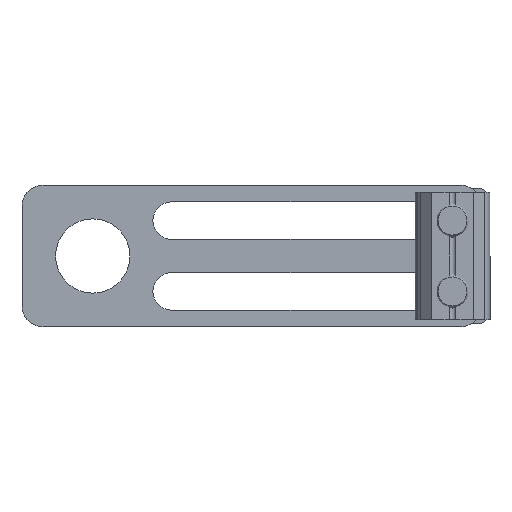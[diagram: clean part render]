
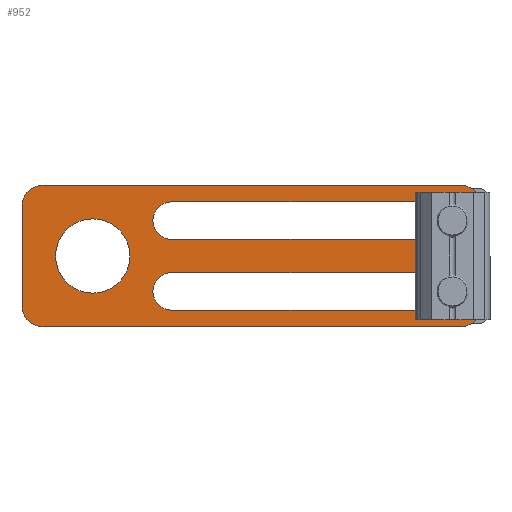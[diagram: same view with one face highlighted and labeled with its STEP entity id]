
A CAD part, left-side view. The second image highlights one B-rep face of the part: STEP entity #952.
In plain terms, the highlighted planar face has unit normal (-1, 0, 0).
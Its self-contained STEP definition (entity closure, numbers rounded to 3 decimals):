
#952=ADVANCED_FACE('',(#1835,#1836,#1837,#1838),#1839,.T.);
#1835=FACE_BOUND('',#2687,.T.);
#1836=FACE_OUTER_BOUND('',#2688,.T.);
#1837=FACE_BOUND('',#2689,.T.);
#1838=FACE_BOUND('',#2690,.T.);
#1839=PLANE('',#2691);
#2687=EDGE_LOOP('',(#5191,#5192,#5193,#5194));
#2688=EDGE_LOOP('',(#5195,#5196,#5197,#5198,#5199,#5200,#5201,#5202));
#2689=EDGE_LOOP('',(#5203));
#2690=EDGE_LOOP('',(#5204,#5205,#5206,#5207));
#2691=AXIS2_PLACEMENT_3D('',#5208,#5209,#5210);
#5191=ORIENTED_EDGE('',*,*,#6316,.F.);
#5192=ORIENTED_EDGE('',*,*,#6317,.F.);
#5193=ORIENTED_EDGE('',*,*,#6318,.F.);
#5194=ORIENTED_EDGE('',*,*,#6319,.F.);
#5195=ORIENTED_EDGE('',*,*,#6320,.T.);
#5196=ORIENTED_EDGE('',*,*,#6292,.T.);
#5197=ORIENTED_EDGE('',*,*,#6321,.T.);
#5198=ORIENTED_EDGE('',*,*,#6322,.T.);
#5199=ORIENTED_EDGE('',*,*,#6323,.T.);
#5200=ORIENTED_EDGE('',*,*,#6297,.T.);
#5201=ORIENTED_EDGE('',*,*,#6324,.T.);
#5202=ORIENTED_EDGE('',*,*,#6325,.T.);
#5203=ORIENTED_EDGE('',*,*,#6326,.F.);
#5204=ORIENTED_EDGE('',*,*,#6327,.F.);
#5205=ORIENTED_EDGE('',*,*,#6328,.T.);
#5206=ORIENTED_EDGE('',*,*,#6329,.F.);
#5207=ORIENTED_EDGE('',*,*,#6330,.T.);
#5208=CARTESIAN_POINT('',(0.,-32.5,10.0));
#5209=DIRECTION('',(-1.0,0.,0.0));
#5210=DIRECTION('',(0.,-1.0,0.0));
#6292=EDGE_CURVE('',#7799,#7797,#7800,.T.);
#6297=EDGE_CURVE('',#7808,#7806,#7809,.T.);
#6316=EDGE_CURVE('',#7841,#7842,#7843,.T.);
#6317=EDGE_CURVE('',#7844,#7841,#7845,.T.);
#6318=EDGE_CURVE('',#7846,#7844,#7847,.T.);
#6319=EDGE_CURVE('',#7842,#7846,#7848,.T.);
#6320=EDGE_CURVE('',#7849,#7799,#7850,.T.);
#6321=EDGE_CURVE('',#7797,#7851,#7852,.T.);
#6322=EDGE_CURVE('',#7851,#7853,#7854,.T.);
#6323=EDGE_CURVE('',#7853,#7808,#7855,.T.);
#6324=EDGE_CURVE('',#7806,#7856,#7857,.T.);
#6325=EDGE_CURVE('',#7856,#7849,#7858,.T.);
#6326=EDGE_CURVE('',#7859,#7859,#7860,.T.);
#6327=EDGE_CURVE('',#7861,#7862,#7863,.T.);
#6328=EDGE_CURVE('',#7861,#7864,#7865,.T.);
#6329=EDGE_CURVE('',#7866,#7864,#7867,.T.);
#6330=EDGE_CURVE('',#7866,#7862,#7868,.T.);
#7797=VERTEX_POINT('',#9874);
#7799=VERTEX_POINT('',#9877);
#7800=CIRCLE('',#9878,3.0);
#7806=VERTEX_POINT('',#9885);
#7808=VERTEX_POINT('',#9888);
#7809=CIRCLE('',#9889,3.0);
#7841=VERTEX_POINT('',#9930);
#7842=VERTEX_POINT('',#9931);
#7843=LINE('',#9932,#9933);
#7844=VERTEX_POINT('',#9934);
#7845=CIRCLE('',#9935,2.65);
#7846=VERTEX_POINT('',#9936);
#7847=LINE('',#9937,#9938);
#7848=CIRCLE('',#9939,2.65);
#7849=VERTEX_POINT('',#9940);
#7850=LINE('',#9941,#9942);
#7851=VERTEX_POINT('',#9943);
#7852=LINE('',#9944,#9945);
#7853=VERTEX_POINT('',#9946);
#7854=CIRCLE('',#9947,3.0);
#7855=LINE('',#9948,#9949);
#7856=VERTEX_POINT('',#9950);
#7857=LINE('',#9951,#9952);
#7858=CIRCLE('',#9953,3.0);
#7859=VERTEX_POINT('',#9954);
#7860=CIRCLE('',#9955,5.25);
#7861=VERTEX_POINT('',#9956);
#7862=VERTEX_POINT('',#9957);
#7863=CIRCLE('',#9958,2.65);
#7864=VERTEX_POINT('',#9959);
#7865=LINE('',#9960,#9961);
#7866=VERTEX_POINT('',#9962);
#7867=CIRCLE('',#9963,2.65);
#7868=LINE('',#9964,#9965);
#9874=CARTESIAN_POINT('',(0.,29.5,-10.0));
#9877=CARTESIAN_POINT('',(0.,32.5,-7.0));
#9878=AXIS2_PLACEMENT_3D('',#11181,#11182,#11183);
#9885=CARTESIAN_POINT('',(0.,-29.5,10.0));
#9888=CARTESIAN_POINT('',(0.,-32.5,7.0));
#9889=AXIS2_PLACEMENT_3D('',#11189,#11190,#11191);
#9930=CARTESIAN_POINT('',(0.,-28.35,-2.35));
#9931=CARTESIAN_POINT('',(0.,11.35,-2.35));
#9932=CARTESIAN_POINT('',(0.,-28.35,-2.35));
#9933=VECTOR('',#11222,1.0);
#9934=CARTESIAN_POINT('',(0.,-28.35,-7.65));
#9935=AXIS2_PLACEMENT_3D('',#11223,#11224,#11225);
#9936=CARTESIAN_POINT('',(0.,11.35,-7.65));
#9937=CARTESIAN_POINT('',(0.,11.35,-7.65));
#9938=VECTOR('',#11226,1.0);
#9939=AXIS2_PLACEMENT_3D('',#11227,#11228,#11229);
#9940=CARTESIAN_POINT('',(0.,32.5,7.0));
#9941=CARTESIAN_POINT('',(0.,32.5,10.0));
#9942=VECTOR('',#11230,1.0);
#9943=CARTESIAN_POINT('',(0.,-29.5,-10.0));
#9944=CARTESIAN_POINT('',(0.,32.5,-10.0));
#9945=VECTOR('',#11231,1.0);
#9946=CARTESIAN_POINT('',(0.,-32.5,-7.0));
#9947=AXIS2_PLACEMENT_3D('',#11232,#11233,#11234);
#9948=CARTESIAN_POINT('',(0.,-32.5,-10.0));
#9949=VECTOR('',#11235,1.0);
#9950=CARTESIAN_POINT('',(0.,29.5,10.0));
#9951=CARTESIAN_POINT('',(0.,-32.5,10.0));
#9952=VECTOR('',#11236,1.0);
#9953=AXIS2_PLACEMENT_3D('',#11237,#11238,#11239);
#9954=CARTESIAN_POINT('',(0.,17.25,0.));
#9955=AXIS2_PLACEMENT_3D('',#11240,#11241,#11242);
#9956=CARTESIAN_POINT('',(0.,11.35,7.65));
#9957=CARTESIAN_POINT('',(0.,11.35,2.35));
#9958=AXIS2_PLACEMENT_3D('',#11243,#11244,#11245);
#9959=CARTESIAN_POINT('',(0.,-28.35,7.65));
#9960=CARTESIAN_POINT('',(0.,11.35,7.65));
#9961=VECTOR('',#11246,1.0);
#9962=CARTESIAN_POINT('',(0.,-28.35,2.35));
#9963=AXIS2_PLACEMENT_3D('',#11247,#11248,#11249);
#9964=CARTESIAN_POINT('',(0.,-28.35,2.35));
#9965=VECTOR('',#11250,1.0);
#11181=CARTESIAN_POINT('',(0.,29.5,-7.0));
#11182=DIRECTION('',(-1.0,0.,0.0));
#11183=DIRECTION('',(0.,-1.0,0.0));
#11189=CARTESIAN_POINT('',(0.,-29.5,7.0));
#11190=DIRECTION('',(-1.0,0.,0.0));
#11191=DIRECTION('',(0.,-1.0,0.0));
#11222=DIRECTION('',(0.,1.0,0.0));
#11223=CARTESIAN_POINT('',(0.,-28.35,-5.0));
#11224=DIRECTION('',(-1.0,0.,0.0));
#11225=DIRECTION('',(0.,-1.0,0.0));
#11226=DIRECTION('',(0.,-1.0,0.0));
#11227=CARTESIAN_POINT('',(0.,11.35,-5.0));
#11228=DIRECTION('',(-1.0,0.,0.0));
#11229=DIRECTION('',(0.,-1.0,0.0));
#11230=DIRECTION('',(0.,0.,-1.0));
#11231=DIRECTION('',(0.,-1.0,0.));
#11232=CARTESIAN_POINT('',(0.,-29.5,-7.0));
#11233=DIRECTION('',(-1.0,0.,0.0));
#11234=DIRECTION('',(0.,-1.0,0.0));
#11235=DIRECTION('',(0.0,0.0,1.0));
#11236=DIRECTION('',(0.,1.0,0.0));
#11237=CARTESIAN_POINT('',(0.,29.5,7.0));
#11238=DIRECTION('',(-1.0,0.,0.0));
#11239=DIRECTION('',(0.,-1.0,0.0));
#11240=CARTESIAN_POINT('',(0.,22.5,0.));
#11241=DIRECTION('',(-1.0,0.,0.0));
#11242=DIRECTION('',(0.,-1.0,0.0));
#11243=CARTESIAN_POINT('',(0.,11.35,5.0));
#11244=DIRECTION('',(-1.0,0.,0.0));
#11245=DIRECTION('',(0.,-1.0,0.0));
#11246=DIRECTION('',(0.,-1.0,0.0));
#11247=CARTESIAN_POINT('',(0.,-28.35,5.0));
#11248=DIRECTION('',(-1.0,0.,0.0));
#11249=DIRECTION('',(0.,-1.0,0.0));
#11250=DIRECTION('',(0.,1.0,0.0));
